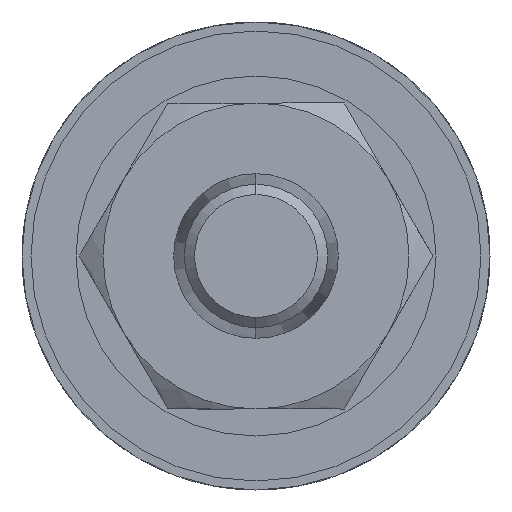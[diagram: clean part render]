
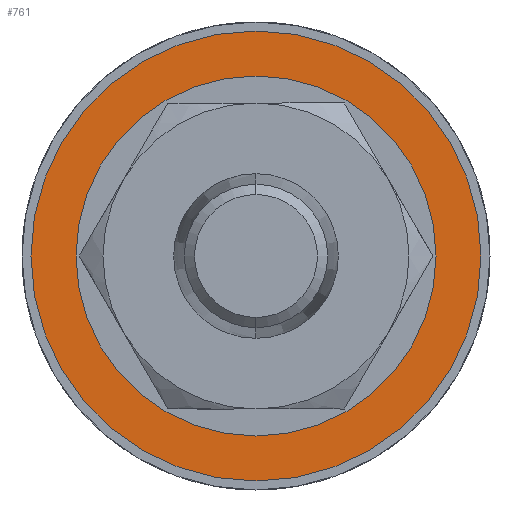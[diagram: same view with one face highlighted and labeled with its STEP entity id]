
A CAD part, left-side view. The second image highlights one B-rep face of the part: STEP entity #761.
In plain terms, the highlighted planar face has unit normal (-1, 0, 0).
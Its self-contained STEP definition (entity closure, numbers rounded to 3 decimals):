
#147 = CARTESIAN_POINT ( 'NONE',  ( 19., 0., -10. ) ) ;
#183 = ORIENTED_EDGE ( 'NONE', *, *, #2555, .F. ) ;
#282 = DIRECTION ( 'NONE',  ( -1., 0., 0. ) ) ;
#302 = DIRECTION ( 'NONE',  ( 0., 0., 1. ) ) ;
#396 = DIRECTION ( 'NONE',  ( 0., 0., 1. ) ) ;
#450 = VERTEX_POINT ( 'NONE', #1917 ) ;
#543 = DIRECTION ( 'NONE',  ( 1., 0., 0. ) ) ;
#550 = CARTESIAN_POINT ( 'NONE',  ( 19., 0., 0. ) ) ;
#585 = EDGE_LOOP ( 'NONE', ( #183, #2688 ) ) ;
#761 = ADVANCED_FACE ( 'NONE', ( #4226, #1278 ), #3101, .F. ) ;
#900 = VERTEX_POINT ( 'NONE', #3382 ) ;
#968 = DIRECTION ( 'NONE',  ( 0., 0., -1. ) ) ;
#975 = DIRECTION ( 'NONE',  ( 0., 0., 1. ) ) ;
#1118 = CIRCLE ( 'NONE', #4284, 12.5 ) ;
#1206 = CARTESIAN_POINT ( 'NONE',  ( 19., 0., 0. ) ) ;
#1278 = FACE_OUTER_BOUND ( 'NONE', #3590, .T. ) ;
#1295 = DIRECTION ( 'NONE',  ( -1., 0., 0. ) ) ;
#1334 = DIRECTION ( 'NONE',  ( -1., 0., 0. ) ) ;
#1872 = VERTEX_POINT ( 'NONE', #2799 ) ;
#1917 = CARTESIAN_POINT ( 'NONE',  ( 19., 0., -12.5 ) ) ;
#1920 = ORIENTED_EDGE ( 'NONE', *, *, #4649, .T. ) ;
#2027 = CIRCLE ( 'NONE', #2859, 10. ) ;
#2084 = CIRCLE ( 'NONE', #4676, 12.5 ) ;
#2484 = DIRECTION ( 'NONE',  ( 0., 0., 1. ) ) ;
#2555 = EDGE_CURVE ( 'NONE', #900, #5118, #2027, .T. ) ;
#2688 = ORIENTED_EDGE ( 'NONE', *, *, #3027, .F. ) ;
#2799 = CARTESIAN_POINT ( 'NONE',  ( 19., 0., 12.5 ) ) ;
#2859 = AXIS2_PLACEMENT_3D ( 'NONE', #1206, #4192, #2484 ) ;
#3027 = EDGE_CURVE ( 'NONE', #5118, #900, #5353, .T. ) ;
#3101 = PLANE ( 'NONE',  #3113 ) ;
#3113 = AXIS2_PLACEMENT_3D ( 'NONE', #3484, #543, #968 ) ;
#3382 = CARTESIAN_POINT ( 'NONE',  ( 19., 0., 10. ) ) ;
#3484 = CARTESIAN_POINT ( 'NONE',  ( 19., 10., 0. ) ) ;
#3492 = AXIS2_PLACEMENT_3D ( 'NONE', #5506, #1295, #396 ) ;
#3590 = EDGE_LOOP ( 'NONE', ( #4858, #1920 ) ) ;
#3664 = CARTESIAN_POINT ( 'NONE',  ( 19., 0., 0. ) ) ;
#4192 = DIRECTION ( 'NONE',  ( -1., 0., 0. ) ) ;
#4226 = FACE_BOUND ( 'NONE', #585, .T. ) ;
#4284 = AXIS2_PLACEMENT_3D ( 'NONE', #3664, #282, #302 ) ;
#4357 = EDGE_CURVE ( 'NONE', #1872, #450, #2084, .T. ) ;
#4649 = EDGE_CURVE ( 'NONE', #450, #1872, #1118, .T. ) ;
#4676 = AXIS2_PLACEMENT_3D ( 'NONE', #550, #1334, #975 ) ;
#4858 = ORIENTED_EDGE ( 'NONE', *, *, #4357, .T. ) ;
#5118 = VERTEX_POINT ( 'NONE', #147 ) ;
#5353 = CIRCLE ( 'NONE', #3492, 10. ) ;
#5506 = CARTESIAN_POINT ( 'NONE',  ( 19., 0., 0. ) ) ;
